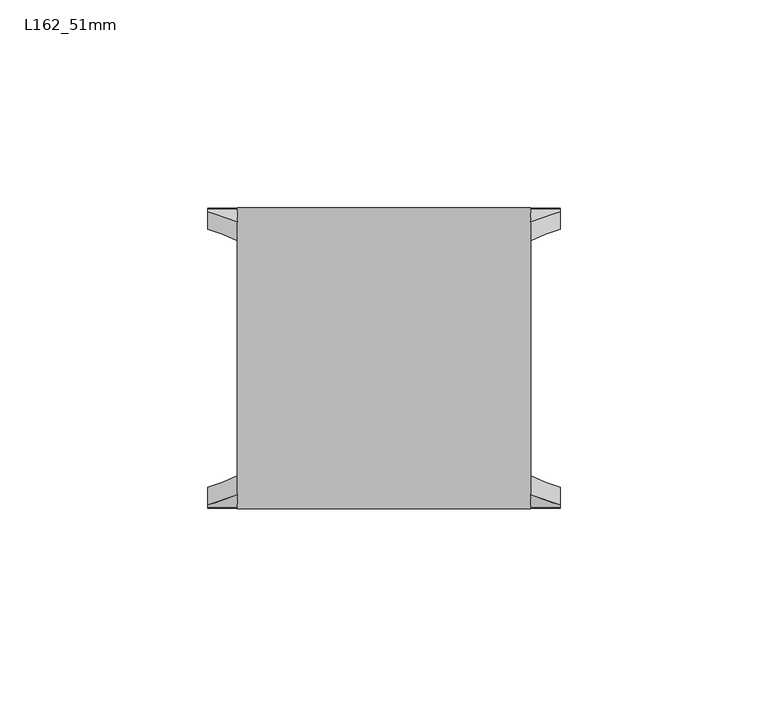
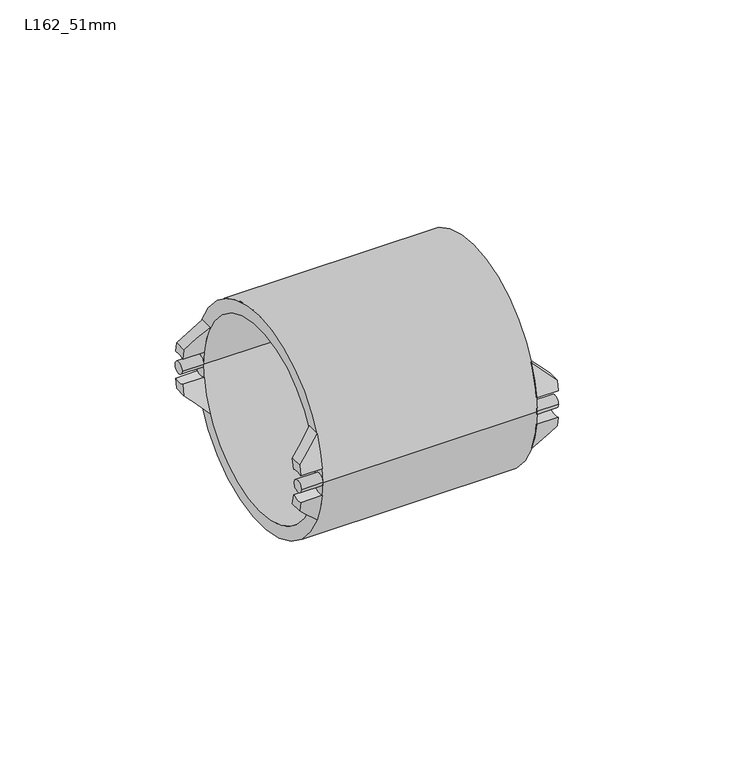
"""IFC4 building model written with IfcOpenShell, lengths in millimetres: pipe fitting geometry, Durapipe_PipeFitting_VulcatheneEnfusion_Coupling_L16 : L162_51mm."""

from ifc_helpers import new_model, si_unit, point, frame, frame_2d, origin, place, context, project, spatial, polyline, circle_curve, ellipse_curve, trimmed, segment, composite_curve, outline, extrude, source, transform, mapped, element, save
from ifc_brep_helpers import plane_surface, cylinder_surface, revolved_surface, advanced_brep


def l162_51mm_ee834548(model_context):
    return source(origin(), model_context, "Body", "SolidModel", [
        advanced_brep(
        [(-42.5, -31.7450513, 4.4106935), (-42.5, -35.8450513, 4.6855945), (-42.5, -35.2672497, 7.94), (-42.5, -31.0509082, 7.94), (-35.4, -32.8910702, 15.0), (-35.4, -35.8450513, 4.6855945), (-35.4, -31.7450513, 4.4106935), (-35.4, -28.3231796, 15.0)],
        [
            (0, 1, circle_curve(frame((-42.5, -34.1, 0.0), z_axis=(1.0, 0.0, 0.0), x_axis=(0.0, 1.0, 0.0)), 5.0)),
            (1, 2, circle_curve(frame((-42.5, 0.0, 0.0), z_axis=(-1.0, 0.0, 0.0), x_axis=(0.0, 1.0, 0.0)), 36.15)),
            (2, 3),
            (3, 0, circle_curve(frame((-42.5, 0.0, 0.0), z_axis=(1.0, 0.0, 0.0), x_axis=(0.0, 1.0, 0.0)), 32.05)),
            (4, 5, circle_curve(frame((-35.4, 0.0, 0.0), z_axis=(1.0, 0.0, 0.0), x_axis=(0.0, 1.0, 0.0)), 36.15)),
            (5, 6, circle_curve(frame((-35.4, -34.1, 0.0), z_axis=(-1.0, 0.0, 0.0), x_axis=(0.0, 1.0, 0.0)), 5.0)),
            (6, 7, circle_curve(frame((-35.4, 0.0, 0.0), z_axis=(-1.0, 0.0, 0.0), x_axis=(0.0, 1.0, 0.0)), 32.05)),
            (7, 4),
            (6, 0),
            (3, 7, ellipse_curve(frame((-50.4849858, 0.0, 0.0), z_axis=(-0.7051064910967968, 0.0, 0.7091014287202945), x_axis=(0.7091014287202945, 0.0, 0.7051064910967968)), 45.454127, 32.05)),
            (4, 2, ellipse_curve(frame((-50.4849858, 0.0, 0.0), z_axis=(0.7051064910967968, 0.0, -0.7091014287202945), x_axis=(-0.7091014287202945, 0.0, -0.7051064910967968)), 51.2688515, 36.15)),
            (1, 5),
        ],
        [
            plane_surface(frame((-42.5, -32.8910702, 15.0), z_axis=(-1.0, 0.0, 0.0), x_axis=(0.0, 1.0, 0.0))),
            plane_surface(frame((-35.4, -32.8910702, 15.0), z_axis=(1.0, 0.0, 0.0), x_axis=(0.0, -1.0, 0.0))),
            revolved_surface(polyline([(-18.253399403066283, 32.05, 0.0), (-82.71657219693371, 32.05, 0.0)]), (-35.4, 0.0, 0.0), (1.0, 0.0, 0.0)),
            cylinder_surface(frame((-35.4, 0.0, 0.0), z_axis=(-1.0, 0.0, 0.0), x_axis=(0.0, 1.0, 0.0)), 36.15),
            revolved_surface(polyline([(-42.5, -29.1, 0.0), (-35.4, -29.1, 0.0)]), (-35.4, -34.1, 0.0), (-1.0, 0.0, 0.0)),
            plane_surface(frame((-35.4, 36.15, 15.0), z_axis=(-0.7051064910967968, 0.0, 0.7091014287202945), x_axis=(0.0, -1.0, 0.0))),
        ],
        [
            (0, [[1, 2, 3, 4]]),
            (1, [[5, 6, 7, 8]]),
            (2, [[-7, 9, -4, 10]]),
            (3, [[-5, 11, -2, 12]]),
            (4, [[-1, -9, -6, -12]]),
            (5, [[-3, -11, -8, -10]]),
        ],
    ),
        advanced_brep(
        [(-42.5, -35.8450513, -4.6855945), (-42.5, -31.7450513, -4.4106935), (-42.5, -31.0509082, -7.94), (-42.5, -35.2672497, -7.94), (-35.4, -35.8450513, -4.6855945), (-35.4, -32.8910702, -15.0), (-35.4, -28.3231796, -15.0), (-35.4, -31.7450513, -4.4106935)],
        [
            (0, 1, circle_curve(frame((-42.5, -34.1, 0.0), z_axis=(1.0, 0.0, 0.0), x_axis=(0.0, 1.0, 0.0)), 5.0)),
            (1, 2, circle_curve(frame((-42.5, 0.0, 0.0), z_axis=(1.0, 0.0, 0.0), x_axis=(0.0, 1.0, 0.0)), 32.05)),
            (2, 3),
            (3, 0, circle_curve(frame((-42.5, 0.0, 0.0), z_axis=(-1.0, 0.0, 0.0), x_axis=(0.0, 1.0, 0.0)), 36.15)),
            (4, 5, circle_curve(frame((-35.4, 0.0, 0.0), z_axis=(1.0, 0.0, 0.0), x_axis=(0.0, 1.0, 0.0)), 36.15)),
            (5, 6),
            (6, 7, circle_curve(frame((-35.4, 0.0, 0.0), z_axis=(-1.0, 0.0, 0.0), x_axis=(0.0, 1.0, 0.0)), 32.05)),
            (7, 4, circle_curve(frame((-35.4, -34.1, 0.0), z_axis=(-1.0, 0.0, 0.0), x_axis=(0.0, 1.0, 0.0)), 5.0)),
            (6, 2, ellipse_curve(frame((-50.4849858, 0.0, 0.0), z_axis=(-0.7051064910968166, 0.0, -0.7091014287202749), x_axis=(0.7091014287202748, 0.0, -0.7051064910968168)), 45.454127, 32.05)),
            (1, 7),
            (4, 0),
            (3, 5, ellipse_curve(frame((-50.4849858, 0.0, 0.0), z_axis=(0.7051064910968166, 0.0, 0.7091014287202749), x_axis=(-0.7091014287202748, 0.0, 0.7051064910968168)), 51.2688515, 36.15)),
        ],
        [
            plane_surface(frame((-42.5, -32.8910702, 15.0), z_axis=(-1.0, 0.0, 0.0), x_axis=(0.0, 1.0, 0.0))),
            plane_surface(frame((-35.4, -32.8910702, 15.0), z_axis=(1.0, 0.0, 0.0), x_axis=(0.0, -1.0, 0.0))),
            revolved_surface(polyline([(-18.253399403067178, 32.05, 0.0), (-82.71657219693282, 32.05, 0.0)]), (-35.4, 0.0, 0.0), (1.0, 0.0, 0.0)),
            cylinder_surface(frame((-35.4, 0.0, 0.0), z_axis=(-1.0, 0.0, 0.0), x_axis=(0.0, 1.0, 0.0)), 36.15),
            revolved_surface(polyline([(-42.5, -29.1, 0.0), (-35.4, -29.1, 0.0)]), (-35.4, -34.1, 0.0), (-1.0, 0.0, 0.0)),
            plane_surface(frame((-42.5, 36.15, -7.94), z_axis=(-0.7051064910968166, 0.0, -0.7091014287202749), x_axis=(0.0, -1.0, 0.0))),
        ],
        [
            (0, [[1, 2, 3, 4]]),
            (1, [[5, 6, 7, 8]]),
            (2, [[-7, 9, -2, 10]]),
            (3, [[-5, 11, -4, 12]]),
            (4, [[-1, -11, -8, -10]]),
            (5, [[-3, -9, -6, -12]]),
        ],
    ),
        advanced_brep(
        [(-42.5, 35.8450513, 4.6855945), (-42.5, 31.7450513, 4.4106935), (-42.5, 31.0509082, 7.94), (-42.5, 35.2672497, 7.94), (-35.4, 35.8450513, 4.6855945), (-35.4, 32.8910702, 15.0), (-35.4, 28.3231796, 15.0), (-35.4, 31.7450513, 4.4106935)],
        [
            (0, 1, circle_curve(frame((-42.5, 34.1, 0.0), z_axis=(1.0, 0.0, 0.0), x_axis=(0.0, 1.0, 0.0)), 5.0)),
            (1, 2, circle_curve(frame((-42.5, 0.0, 0.0), z_axis=(1.0, 0.0, 0.0), x_axis=(0.0, 1.0, 0.0)), 32.05)),
            (2, 3),
            (3, 0, circle_curve(frame((-42.5, 0.0, 0.0), z_axis=(-1.0, 0.0, 0.0), x_axis=(0.0, 1.0, 0.0)), 36.15)),
            (4, 5, circle_curve(frame((-35.4, 0.0, 0.0), z_axis=(1.0, 0.0, 0.0), x_axis=(0.0, 1.0, 0.0)), 36.15)),
            (5, 6),
            (6, 7, circle_curve(frame((-35.4, 0.0, 0.0), z_axis=(-1.0, 0.0, 0.0), x_axis=(0.0, 1.0, 0.0)), 32.05)),
            (7, 4, circle_curve(frame((-35.4, 34.1, 0.0), z_axis=(-1.0, 0.0, 0.0), x_axis=(0.0, 1.0, 0.0)), 5.0)),
            (6, 2, ellipse_curve(frame((-50.4849858, 0.0, 0.0), z_axis=(-0.7051064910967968, 0.0, 0.7091014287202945), x_axis=(0.7091014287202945, 0.0, 0.7051064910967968)), 45.454127, 32.05)),
            (1, 7),
            (4, 0),
            (3, 5, ellipse_curve(frame((-50.4849858, 0.0, 0.0), z_axis=(0.7051064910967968, 0.0, -0.7091014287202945), x_axis=(-0.7091014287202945, 0.0, -0.7051064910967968)), 51.2688515, 36.15)),
        ],
        [
            plane_surface(frame((-42.5, -32.8910702, 15.0), z_axis=(-1.0, 0.0, 0.0), x_axis=(0.0, 1.0, 0.0))),
            plane_surface(frame((-35.4, -32.8910702, 15.0), z_axis=(1.0, 0.0, 0.0), x_axis=(0.0, -1.0, 0.0))),
            revolved_surface(polyline([(-18.253399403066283, 32.05, 0.0), (-82.71657219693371, 32.05, 0.0)]), (-35.4, 0.0, 0.0), (1.0, 0.0, 0.0)),
            cylinder_surface(frame((-35.4, 0.0, 0.0), z_axis=(-1.0, 0.0, 0.0), x_axis=(0.0, 1.0, 0.0)), 36.15),
            revolved_surface(polyline([(-42.5, 39.1, 0.0), (-35.4, 39.1, 0.0)]), (-35.4, 34.1, 0.0), (-1.0, 0.0, 0.0)),
            plane_surface(frame((-35.4, 36.15, 15.0), z_axis=(-0.7051064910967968, 0.0, 0.7091014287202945), x_axis=(0.0, -1.0, 0.0))),
        ],
        [
            (0, [[1, 2, 3, 4]]),
            (1, [[5, 6, 7, 8]]),
            (2, [[-7, 9, -2, 10]]),
            (3, [[-5, 11, -4, 12]]),
            (4, [[-1, -11, -8, -10]]),
            (5, [[-3, -9, -6, -12]]),
        ],
    ),
        advanced_brep(
        [(-42.5, 31.7450513, -4.4106935), (-42.5, 35.8450513, -4.6855945), (-42.5, 35.2672497, -7.94), (-42.5, 31.0509082, -7.94), (-35.4, 32.8910702, -15.0), (-35.4, 35.8450513, -4.6855945), (-35.4, 31.7450513, -4.4106935), (-35.4, 28.3231796, -15.0)],
        [
            (0, 1, circle_curve(frame((-42.5, 34.1, 0.0), z_axis=(1.0, 0.0, 0.0), x_axis=(0.0, 1.0, 0.0)), 5.0)),
            (1, 2, circle_curve(frame((-42.5, 0.0, 0.0), z_axis=(-1.0, 0.0, 0.0), x_axis=(0.0, 1.0, 0.0)), 36.15)),
            (2, 3),
            (3, 0, circle_curve(frame((-42.5, 0.0, 0.0), z_axis=(1.0, 0.0, 0.0), x_axis=(0.0, 1.0, 0.0)), 32.05)),
            (4, 5, circle_curve(frame((-35.4, 0.0, 0.0), z_axis=(1.0, 0.0, 0.0), x_axis=(0.0, 1.0, 0.0)), 36.15)),
            (5, 6, circle_curve(frame((-35.4, 34.1, 0.0), z_axis=(-1.0, 0.0, 0.0), x_axis=(0.0, 1.0, 0.0)), 5.0)),
            (6, 7, circle_curve(frame((-35.4, 0.0, 0.0), z_axis=(-1.0, 0.0, 0.0), x_axis=(0.0, 1.0, 0.0)), 32.05)),
            (7, 4),
            (6, 0),
            (3, 7, ellipse_curve(frame((-50.4849858, 0.0, 0.0), z_axis=(-0.7051064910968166, 0.0, -0.7091014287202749), x_axis=(0.7091014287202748, 0.0, -0.7051064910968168)), 45.454127, 32.05)),
            (4, 2, ellipse_curve(frame((-50.4849858, 0.0, 0.0), z_axis=(0.7051064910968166, 0.0, 0.7091014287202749), x_axis=(-0.7091014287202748, 0.0, 0.7051064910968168)), 51.2688515, 36.15)),
            (1, 5),
        ],
        [
            plane_surface(frame((-42.5, -32.8910702, 15.0), z_axis=(-1.0, 0.0, 0.0), x_axis=(0.0, 1.0, 0.0))),
            plane_surface(frame((-35.4, -32.8910702, 15.0), z_axis=(1.0, 0.0, 0.0), x_axis=(0.0, -1.0, 0.0))),
            revolved_surface(polyline([(-18.253399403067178, 32.05, 0.0), (-82.71657219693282, 32.05, 0.0)]), (-35.4, 0.0, 0.0), (1.0, 0.0, 0.0)),
            cylinder_surface(frame((-35.4, 0.0, 0.0), z_axis=(-1.0, 0.0, 0.0), x_axis=(0.0, 1.0, 0.0)), 36.15),
            revolved_surface(polyline([(-42.5, 39.1, 0.0), (-35.4, 39.1, 0.0)]), (-35.4, 34.1, 0.0), (-1.0, 0.0, 0.0)),
            plane_surface(frame((-42.5, 36.15, -7.94), z_axis=(-0.7051064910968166, 0.0, -0.7091014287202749), x_axis=(0.0, -1.0, 0.0))),
        ],
        [
            (0, [[1, 2, 3, 4]]),
            (1, [[5, 6, 7, 8]]),
            (2, [[-7, 9, -4, 10]]),
            (3, [[-5, 11, -2, 12]]),
            (4, [[-1, -9, -6, -12]]),
            (5, [[-3, -11, -8, -10]]),
        ],
    ),
        extrude(outline(composite_curve([segment(trimmed(circle_curve(frame_2d((-34.1, 0.0)), 2.0), [point((-36.1, 0.0))], [point((-32.1, 0.0))], False, "CARTESIAN"), True, "CONTINUOUS"), segment(trimmed(circle_curve(frame_2d((-34.1, 0.0)), 2.0), [point((-32.1, 0.0))], [point((-36.1, 0.0))], False, "CARTESIAN"), True, "CONTINUOUS")], self_intersect=False)), frame((-42.5, 0.0, 0.0), z_axis=(1.0, 0.0, 0.0), x_axis=(0.0, 1.0, 0.0)), (0.0, 0.0, 1.0), 7.1),
        extrude(outline(composite_curve([segment(trimmed(circle_curve(frame_2d((34.1, 0.0)), 2.0), [point((32.1, 0.0))], [point((36.1, 0.0))], False, "CARTESIAN"), True, "CONTINUOUS"), segment(trimmed(circle_curve(frame_2d((34.1, 0.0)), 2.0), [point((36.1, 0.0))], [point((32.1, 0.0))], False, "CARTESIAN"), True, "CONTINUOUS")], self_intersect=False)), frame((-42.5, 0.0, 0.0), z_axis=(1.0, 0.0, 0.0), x_axis=(0.0, 1.0, 0.0)), (0.0, 0.0, 1.0), 7.1),
        advanced_brep(
        [(42.5, -31.7450513, -4.4106935), (42.5, -35.8450513, -4.6855945), (42.5, -35.2672497, -7.94), (42.5, -31.0509082, -7.94), (35.4, -32.8910702, -15.0), (35.4, -35.8450513, -4.6855945), (35.4, -31.7450513, -4.4106935), (35.4, -28.3231796, -15.0)],
        [
            (0, 1, circle_curve(frame((42.5, -34.1, 0.0), z_axis=(-1.0, 0.0, 0.0), x_axis=(0.0, 1.0, 0.0)), 5.0)),
            (1, 2, circle_curve(frame((42.5, 0.0, 0.0), z_axis=(1.0, 0.0, 0.0), x_axis=(0.0, 1.0, 0.0)), 36.15)),
            (2, 3),
            (3, 0, circle_curve(frame((42.5, 0.0, 0.0), z_axis=(-1.0, 0.0, 0.0), x_axis=(0.0, 1.0, 0.0)), 32.05)),
            (4, 5, circle_curve(frame((35.4, 0.0, 0.0), z_axis=(-1.0, 0.0, 0.0), x_axis=(0.0, 1.0, 0.0)), 36.15)),
            (5, 6, circle_curve(frame((35.4, -34.1, 0.0), z_axis=(1.0, 0.0, 0.0), x_axis=(0.0, 1.0, 0.0)), 5.0)),
            (6, 7, circle_curve(frame((35.4, 0.0, 0.0), z_axis=(1.0, 0.0, 0.0), x_axis=(0.0, 1.0, 0.0)), 32.05)),
            (7, 4),
            (6, 0),
            (3, 7, ellipse_curve(frame((50.4849858, 0.0, 0.0), z_axis=(0.7051064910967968, 0.0, -0.7091014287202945), x_axis=(-0.7091014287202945, 0.0, -0.7051064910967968)), 45.454127, 32.05)),
            (4, 2, ellipse_curve(frame((50.4849858, 0.0, 0.0), z_axis=(-0.7051064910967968, 0.0, 0.7091014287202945), x_axis=(0.7091014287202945, 0.0, 0.7051064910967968)), 51.2688515, 36.15)),
            (1, 5),
        ],
        [
            plane_surface(frame((42.5, -32.8910702, -15.0), z_axis=(1.0, 0.0, 0.0), x_axis=(0.0, 1.0, 0.0))),
            plane_surface(frame((35.4, -32.8910702, -15.0), z_axis=(-1.0, 0.0, 0.0), x_axis=(0.0, -1.0, 0.0))),
            revolved_surface(polyline([(18.253399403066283, 32.05, 0.0), (82.71657219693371, 32.05, 0.0)]), (35.4, 0.0, 0.0), (-1.0, 0.0, 0.0)),
            cylinder_surface(frame((35.4, 0.0, 0.0), z_axis=(1.0, 0.0, 0.0), x_axis=(0.0, 1.0, 0.0)), 36.15),
            revolved_surface(polyline([(42.5, -29.1, 0.0), (35.4, -29.1, 0.0)]), (35.4, -34.1, 0.0), (1.0, 0.0, 0.0)),
            plane_surface(frame((35.4, 36.15, -15.0), z_axis=(0.7051064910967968, 0.0, -0.7091014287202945), x_axis=(0.0, -1.0, 0.0))),
        ],
        [
            (0, [[1, 2, 3, 4]]),
            (1, [[5, 6, 7, 8]]),
            (2, [[-7, 9, -4, 10]]),
            (3, [[-5, 11, -2, 12]]),
            (4, [[-1, -9, -6, -12]]),
            (5, [[-3, -11, -8, -10]]),
        ],
    ),
        advanced_brep(
        [(42.5, -35.8450513, 4.6855945), (42.5, -31.7450513, 4.4106935), (42.5, -31.0509082, 7.94), (42.5, -35.2672497, 7.94), (35.4, -35.8450513, 4.6855945), (35.4, -32.8910702, 15.0), (35.4, -28.3231796, 15.0), (35.4, -31.7450513, 4.4106935)],
        [
            (0, 1, circle_curve(frame((42.5, -34.1, 0.0), z_axis=(-1.0, 0.0, 0.0), x_axis=(0.0, 1.0, 0.0)), 5.0)),
            (1, 2, circle_curve(frame((42.5, 0.0, 0.0), z_axis=(-1.0, 0.0, 0.0), x_axis=(0.0, 1.0, 0.0)), 32.05)),
            (2, 3),
            (3, 0, circle_curve(frame((42.5, 0.0, 0.0), z_axis=(1.0, 0.0, 0.0), x_axis=(0.0, 1.0, 0.0)), 36.15)),
            (4, 5, circle_curve(frame((35.4, 0.0, 0.0), z_axis=(-1.0, 0.0, 0.0), x_axis=(0.0, 1.0, 0.0)), 36.15)),
            (5, 6),
            (6, 7, circle_curve(frame((35.4, 0.0, 0.0), z_axis=(1.0, 0.0, 0.0), x_axis=(0.0, 1.0, 0.0)), 32.05)),
            (7, 4, circle_curve(frame((35.4, -34.1, 0.0), z_axis=(1.0, 0.0, 0.0), x_axis=(0.0, 1.0, 0.0)), 5.0)),
            (6, 2, ellipse_curve(frame((50.4849858, 0.0, 0.0), z_axis=(0.7051064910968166, 0.0, 0.7091014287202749), x_axis=(-0.7091014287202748, 0.0, 0.7051064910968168)), 45.454127, 32.05)),
            (1, 7),
            (4, 0),
            (3, 5, ellipse_curve(frame((50.4849858, 0.0, 0.0), z_axis=(-0.7051064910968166, 0.0, -0.7091014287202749), x_axis=(0.7091014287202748, 0.0, -0.7051064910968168)), 51.2688515, 36.15)),
        ],
        [
            plane_surface(frame((42.5, -32.8910702, -15.0), z_axis=(1.0, 0.0, 0.0), x_axis=(0.0, 1.0, 0.0))),
            plane_surface(frame((35.4, -32.8910702, -15.0), z_axis=(-1.0, 0.0, 0.0), x_axis=(0.0, -1.0, 0.0))),
            revolved_surface(polyline([(18.253399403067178, 32.05, 0.0), (82.71657219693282, 32.05, 0.0)]), (35.4, 0.0, 0.0), (-1.0, 0.0, 0.0)),
            cylinder_surface(frame((35.4, 0.0, 0.0), z_axis=(1.0, 0.0, 0.0), x_axis=(0.0, 1.0, 0.0)), 36.15),
            revolved_surface(polyline([(42.5, -29.1, 0.0), (35.4, -29.1, 0.0)]), (35.4, -34.1, 0.0), (1.0, 0.0, 0.0)),
            plane_surface(frame((42.5, 36.15, 7.94), z_axis=(0.7051064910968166, 0.0, 0.7091014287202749), x_axis=(0.0, -1.0, 0.0))),
        ],
        [
            (0, [[1, 2, 3, 4]]),
            (1, [[5, 6, 7, 8]]),
            (2, [[-7, 9, -2, 10]]),
            (3, [[-5, 11, -4, 12]]),
            (4, [[-1, -11, -8, -10]]),
            (5, [[-3, -9, -6, -12]]),
        ],
    ),
        advanced_brep(
        [(42.5, 35.8450513, -4.6855945), (42.5, 31.7450513, -4.4106935), (42.5, 31.0509082, -7.94), (42.5, 35.2672497, -7.94), (35.4, 35.8450513, -4.6855945), (35.4, 32.8910702, -15.0), (35.4, 28.3231796, -15.0), (35.4, 31.7450513, -4.4106935)],
        [
            (0, 1, circle_curve(frame((42.5, 34.1, 0.0), z_axis=(-1.0, 0.0, 0.0), x_axis=(0.0, 1.0, 0.0)), 5.0)),
            (1, 2, circle_curve(frame((42.5, 0.0, 0.0), z_axis=(-1.0, 0.0, 0.0), x_axis=(0.0, 1.0, 0.0)), 32.05)),
            (2, 3),
            (3, 0, circle_curve(frame((42.5, 0.0, 0.0), z_axis=(1.0, 0.0, 0.0), x_axis=(0.0, 1.0, 0.0)), 36.15)),
            (4, 5, circle_curve(frame((35.4, 0.0, 0.0), z_axis=(-1.0, 0.0, 0.0), x_axis=(0.0, 1.0, 0.0)), 36.15)),
            (5, 6),
            (6, 7, circle_curve(frame((35.4, 0.0, 0.0), z_axis=(1.0, 0.0, 0.0), x_axis=(0.0, 1.0, 0.0)), 32.05)),
            (7, 4, circle_curve(frame((35.4, 34.1, 0.0), z_axis=(1.0, 0.0, 0.0), x_axis=(0.0, 1.0, 0.0)), 5.0)),
            (6, 2, ellipse_curve(frame((50.4849858, 0.0, 0.0), z_axis=(0.7051064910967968, 0.0, -0.7091014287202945), x_axis=(-0.7091014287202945, 0.0, -0.7051064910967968)), 45.454127, 32.05)),
            (1, 7),
            (4, 0),
            (3, 5, ellipse_curve(frame((50.4849858, 0.0, 0.0), z_axis=(-0.7051064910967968, 0.0, 0.7091014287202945), x_axis=(0.7091014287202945, 0.0, 0.7051064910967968)), 51.2688515, 36.15)),
        ],
        [
            plane_surface(frame((42.5, -32.8910702, -15.0), z_axis=(1.0, 0.0, 0.0), x_axis=(0.0, 1.0, 0.0))),
            plane_surface(frame((35.4, -32.8910702, -15.0), z_axis=(-1.0, 0.0, 0.0), x_axis=(0.0, -1.0, 0.0))),
            revolved_surface(polyline([(18.253399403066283, 32.05, 0.0), (82.71657219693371, 32.05, 0.0)]), (35.4, 0.0, 0.0), (-1.0, 0.0, 0.0)),
            cylinder_surface(frame((35.4, 0.0, 0.0), z_axis=(1.0, 0.0, 0.0), x_axis=(0.0, 1.0, 0.0)), 36.15),
            revolved_surface(polyline([(42.5, 39.1, 0.0), (35.4, 39.1, 0.0)]), (35.4, 34.1, 0.0), (1.0, 0.0, 0.0)),
            plane_surface(frame((35.4, 36.15, -15.0), z_axis=(0.7051064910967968, 0.0, -0.7091014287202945), x_axis=(0.0, -1.0, 0.0))),
        ],
        [
            (0, [[1, 2, 3, 4]]),
            (1, [[5, 6, 7, 8]]),
            (2, [[-7, 9, -2, 10]]),
            (3, [[-5, 11, -4, 12]]),
            (4, [[-1, -11, -8, -10]]),
            (5, [[-3, -9, -6, -12]]),
        ],
    ),
        advanced_brep(
        [(42.5, 31.7450513, 4.4106935), (42.5, 35.8450513, 4.6855945), (42.5, 35.2672497, 7.94), (42.5, 31.0509082, 7.94), (35.4, 32.8910702, 15.0), (35.4, 35.8450513, 4.6855945), (35.4, 31.7450513, 4.4106935), (35.4, 28.3231796, 15.0)],
        [
            (0, 1, circle_curve(frame((42.5, 34.1, 0.0), z_axis=(-1.0, 0.0, 0.0), x_axis=(0.0, 1.0, 0.0)), 5.0)),
            (1, 2, circle_curve(frame((42.5, 0.0, 0.0), z_axis=(1.0, 0.0, 0.0), x_axis=(0.0, 1.0, 0.0)), 36.15)),
            (2, 3),
            (3, 0, circle_curve(frame((42.5, 0.0, 0.0), z_axis=(-1.0, 0.0, 0.0), x_axis=(0.0, 1.0, 0.0)), 32.05)),
            (4, 5, circle_curve(frame((35.4, 0.0, 0.0), z_axis=(-1.0, 0.0, 0.0), x_axis=(0.0, 1.0, 0.0)), 36.15)),
            (5, 6, circle_curve(frame((35.4, 34.1, 0.0), z_axis=(1.0, 0.0, 0.0), x_axis=(0.0, 1.0, 0.0)), 5.0)),
            (6, 7, circle_curve(frame((35.4, 0.0, 0.0), z_axis=(1.0, 0.0, 0.0), x_axis=(0.0, 1.0, 0.0)), 32.05)),
            (7, 4),
            (6, 0),
            (3, 7, ellipse_curve(frame((50.4849858, 0.0, 0.0), z_axis=(0.7051064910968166, 0.0, 0.7091014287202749), x_axis=(-0.7091014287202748, 0.0, 0.7051064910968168)), 45.454127, 32.05)),
            (4, 2, ellipse_curve(frame((50.4849858, 0.0, 0.0), z_axis=(-0.7051064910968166, 0.0, -0.7091014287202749), x_axis=(0.7091014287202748, 0.0, -0.7051064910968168)), 51.2688515, 36.15)),
            (1, 5),
        ],
        [
            plane_surface(frame((42.5, -32.8910702, -15.0), z_axis=(1.0, 0.0, 0.0), x_axis=(0.0, 1.0, 0.0))),
            plane_surface(frame((35.4, -32.8910702, -15.0), z_axis=(-1.0, 0.0, 0.0), x_axis=(0.0, -1.0, 0.0))),
            revolved_surface(polyline([(18.253399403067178, 32.05, 0.0), (82.71657219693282, 32.05, 0.0)]), (35.4, 0.0, 0.0), (-1.0, 0.0, 0.0)),
            cylinder_surface(frame((35.4, 0.0, 0.0), z_axis=(1.0, 0.0, 0.0), x_axis=(0.0, 1.0, 0.0)), 36.15),
            revolved_surface(polyline([(42.5, 39.1, 0.0), (35.4, 39.1, 0.0)]), (35.4, 34.1, 0.0), (1.0, 0.0, 0.0)),
            plane_surface(frame((42.5, 36.15, 7.94), z_axis=(0.7051064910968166, 0.0, 0.7091014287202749), x_axis=(0.0, -1.0, 0.0))),
        ],
        [
            (0, [[1, 2, 3, 4]]),
            (1, [[5, 6, 7, 8]]),
            (2, [[-7, 9, -4, 10]]),
            (3, [[-5, 11, -2, 12]]),
            (4, [[-1, -9, -6, -12]]),
            (5, [[-3, -11, -8, -10]]),
        ],
    ),
        extrude(outline(composite_curve([segment(trimmed(circle_curve(frame_2d((-34.1, 0.0)), 2.0), [point((-36.1, 0.0))], [point((-32.1, 0.0))], False, "CARTESIAN"), True, "CONTINUOUS"), segment(trimmed(circle_curve(frame_2d((-34.1, 0.0)), 2.0), [point((-32.1, 0.0))], [point((-36.1, 0.0))], False, "CARTESIAN"), True, "CONTINUOUS")], self_intersect=False)), frame((35.4, 0.0, 0.0), z_axis=(1.0, 0.0, 0.0), x_axis=(0.0, 1.0, 0.0)), (0.0, 0.0, 1.0), 7.1),
        extrude(outline(composite_curve([segment(trimmed(circle_curve(frame_2d((34.1, 0.0)), 2.0), [point((32.1, 0.0))], [point((36.1, 0.0))], False, "CARTESIAN"), True, "CONTINUOUS"), segment(trimmed(circle_curve(frame_2d((34.1, 0.0)), 2.0), [point((36.1, 0.0))], [point((32.1, 0.0))], False, "CARTESIAN"), True, "CONTINUOUS")], self_intersect=False)), frame((35.4, 0.0, 0.0), z_axis=(1.0, 0.0, 0.0), x_axis=(0.0, 1.0, 0.0)), (0.0, 0.0, 1.0), 7.1),
        advanced_brep(
        [(-3.65, -31.9, 0.0), (-3.65, 31.9, 0.0), (-35.4, 31.9, 0.0), (-35.4, -31.9, 0.0), (-3.65, -26.1, 0.0), (-3.65, 26.1, 0.0), (3.65, -26.1, 0.0), (3.65, 26.1, 0.0), (3.65, -31.9, 0.0), (3.65, 31.9, 0.0), (35.4, -31.9, 0.0), (35.4, 31.9, 0.0), (35.4, -36.3, 0.0), (35.4, 36.3, 0.0), (-35.4, -36.3, 0.0), (-35.4, 36.3, 0.0)],
        [
            (0, 1, circle_curve(frame((-3.65, 0.0, 0.0), z_axis=(1.0, 0.0, 0.0), x_axis=(0.0, 1.0, 0.0)), 31.9)),
            (1, 2),
            (2, 3, circle_curve(frame((-35.4, 0.0, 0.0), z_axis=(-1.0, 0.0, 0.0), x_axis=(0.0, 1.0, 0.0)), 31.9)),
            (3, 0),
            (1, 0, circle_curve(frame((-3.65, 0.0, 0.0), z_axis=(1.0, 0.0, 0.0), x_axis=(0.0, 1.0, 0.0)), 31.9)),
            (3, 2, circle_curve(frame((-35.4, 0.0, 0.0), z_axis=(-1.0, 0.0, 0.0), x_axis=(0.0, 1.0, 0.0)), 31.9)),
            (4, 5, circle_curve(frame((-3.65, 0.0, 0.0), z_axis=(1.0, 0.0, 0.0), x_axis=(0.0, 1.0, 0.0)), 26.1)),
            (5, 1),
            (0, 4),
            (5, 4, circle_curve(frame((-3.65, 0.0, 0.0), z_axis=(1.0, 0.0, 0.0), x_axis=(0.0, 1.0, 0.0)), 26.1)),
            (6, 7, circle_curve(frame((3.65, 0.0, 0.0), z_axis=(1.0, 0.0, 0.0), x_axis=(0.0, 1.0, 0.0)), 26.1)),
            (7, 5),
            (4, 6),
            (7, 6, circle_curve(frame((3.65, 0.0, 0.0), z_axis=(1.0, 0.0, 0.0), x_axis=(0.0, 1.0, 0.0)), 26.1)),
            (8, 9, circle_curve(frame((3.65, 0.0, 0.0), z_axis=(1.0, 0.0, 0.0), x_axis=(0.0, 1.0, 0.0)), 31.9)),
            (9, 7),
            (6, 8),
            (9, 8, circle_curve(frame((3.65, 0.0, 0.0), z_axis=(1.0, 0.0, 0.0), x_axis=(0.0, 1.0, 0.0)), 31.9)),
            (10, 11, circle_curve(frame((35.4, 0.0, 0.0), z_axis=(1.0, 0.0, 0.0), x_axis=(0.0, 1.0, 0.0)), 31.9)),
            (11, 9),
            (8, 10),
            (11, 10, circle_curve(frame((35.4, 0.0, 0.0), z_axis=(1.0, 0.0, 0.0), x_axis=(0.0, 1.0, 0.0)), 31.9)),
            (12, 13, circle_curve(frame((35.4, 0.0, 0.0), z_axis=(1.0, 0.0, 0.0), x_axis=(0.0, 1.0, 0.0)), 36.3)),
            (13, 11),
            (10, 12),
            (13, 12, circle_curve(frame((35.4, 0.0, 0.0), z_axis=(1.0, 0.0, 0.0), x_axis=(0.0, 1.0, 0.0)), 36.3)),
            (14, 15, circle_curve(frame((-35.4, 0.0, 0.0), z_axis=(1.0, 0.0, 0.0), x_axis=(0.0, 1.0, 0.0)), 36.3)),
            (15, 13),
            (12, 14),
            (15, 14, circle_curve(frame((-35.4, 0.0, 0.0), z_axis=(1.0, 0.0, 0.0), x_axis=(0.0, 1.0, 0.0)), 36.3)),
            (2, 15),
            (14, 3),
        ],
        [
            revolved_surface(polyline([(-35.40000000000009, 31.9, 0.0), (-3.650000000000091, 31.9, 0.0)]), (1584.6396958, 0.0, 0.0), (-1.0, 0.0, 0.0)),
            plane_surface(frame((-3.65, 0.0, 0.0), z_axis=(-1.0, 0.0, 0.0), x_axis=(0.0, 1.0, 0.0))),
            revolved_surface(polyline([(-3.650000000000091, 26.1, 0.0), (3.650000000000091, 26.1, 0.0)]), (1584.6396958, 0.0, 0.0), (-1.0, 0.0, 0.0)),
            plane_surface(frame((3.65, 0.0, 0.0), z_axis=(1.0, 0.0, 0.0), x_axis=(0.0, 1.0, 0.0))),
            revolved_surface(polyline([(3.650000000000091, 31.9, 0.0), (35.40000000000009, 31.9, 0.0)]), (1584.6396958, 0.0, 0.0), (-1.0, 0.0, 0.0)),
            plane_surface(frame((35.4, 0.0, 0.0), z_axis=(1.0, 0.0, 0.0), x_axis=(0.0, 1.0, 0.0))),
            cylinder_surface(frame((1584.6396958, 0.0, 0.0), z_axis=(-1.0, 0.0, 0.0), x_axis=(0.0, 1.0, 0.0)), 36.3),
            plane_surface(frame((-35.4, 0.0, 0.0), z_axis=(-1.0, 0.0, 0.0), x_axis=(0.0, 1.0, 0.0))),
        ],
        [
            (0, [[1, 2, 3, 4]]),
            (0, [[5, -4, 6, -2]]),
            (1, [[7, 8, -1, 9]]),
            (1, [[10, -9, -5, -8]]),
            (2, [[11, 12, -7, 13]]),
            (2, [[14, -13, -10, -12]]),
            (3, [[15, 16, -11, 17]]),
            (3, [[18, -17, -14, -16]]),
            (4, [[19, 20, -15, 21]]),
            (4, [[22, -21, -18, -20]]),
            (5, [[23, 24, -19, 25]]),
            (5, [[26, -25, -22, -24]]),
            (6, [[27, 28, -23, 29]]),
            (6, [[30, -29, -26, -28]]),
            (7, [[-3, 31, -27, 32]]),
            (7, [[-6, -32, -30, -31]]),
        ],
    ),
    ])


if __name__ == "__main__":
    model = new_model("IFC4")
    model_context = context("Model", 3, world=origin())
    ifc_project = project(units=[si_unit("LENGTHUNIT", "METRE", prefix="MILLI")], contexts=[model_context])
    site = spatial("IfcSite", under=ifc_project)
    building = spatial("IfcBuilding", under=site)
    placement = place(None, origin())
    l162_51mm_shape = l162_51mm_ee834548(model_context)
    element("IfcPipeFitting", 1, ObjectType="Durapipe_PipeFitting_VulcatheneEnfusion_Coupling_L16 : L162_51mm", at=placement, inside=building, context=model_context, shape_type="MappedRepresentation", body=[
        mapped(l162_51mm_shape, transform((0.0, 0.0, 0.0), x_axis=(1.0, 0.0, 0.0), y_axis=(0.0, 1.0, 0.0), z_axis=(0.0, 0.0, 1.0))),
    ])
    save(model, "model.ifc")
